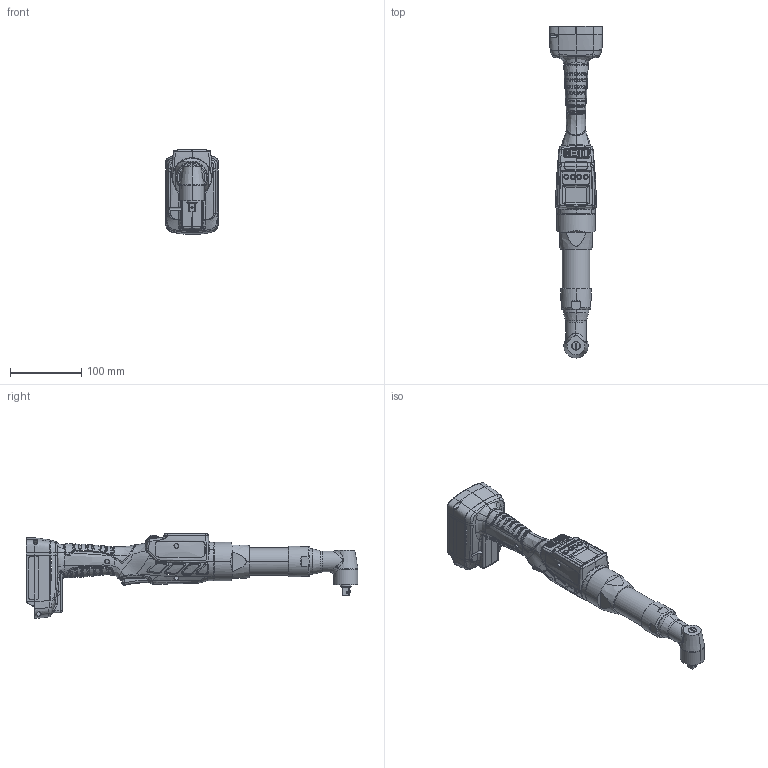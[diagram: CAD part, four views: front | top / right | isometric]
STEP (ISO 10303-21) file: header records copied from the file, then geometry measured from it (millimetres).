
FILE_DESCRIPTION (( 'STEP AP203' ), '1' );
FILE_NAME ('BMH3264-Q38 諼睡辨.STEP', '2021-03-04T00:29:38', ( '' ), ( '' ), 'SwSTEP 2.0', 'SolidWorks 2020', '' );
FILE_SCHEMA (( 'CONFIG_CONTROL_DESIGN' ));
Products named in the file (1): BMH3264-Q38 諼睡辨
Bounding box: 74.18 x 465.24 x 119.33 mm (x, y, z)
Surface area: 114550.4 mm2 (no closed solid volume)
Topology: 0 solids, 32 shells, 1500 faces, 5077 edges, 3463 vertices
Faces by surface type: bspline 970, cylinder 225, plane 217, cone 39, sphere 33, torus 16
Entity records: 131017 total; most frequent: CARTESIAN_POINT 98422, ORIENTED_EDGE 8018, EDGE_CURVE 5067, VERTEX_POINT 3462, DIRECTION 3399, B_SPLINE_CURVE_WITH_KNOTS 2920, EDGE_LOOP 1568, ADVANCED_FACE 1499
